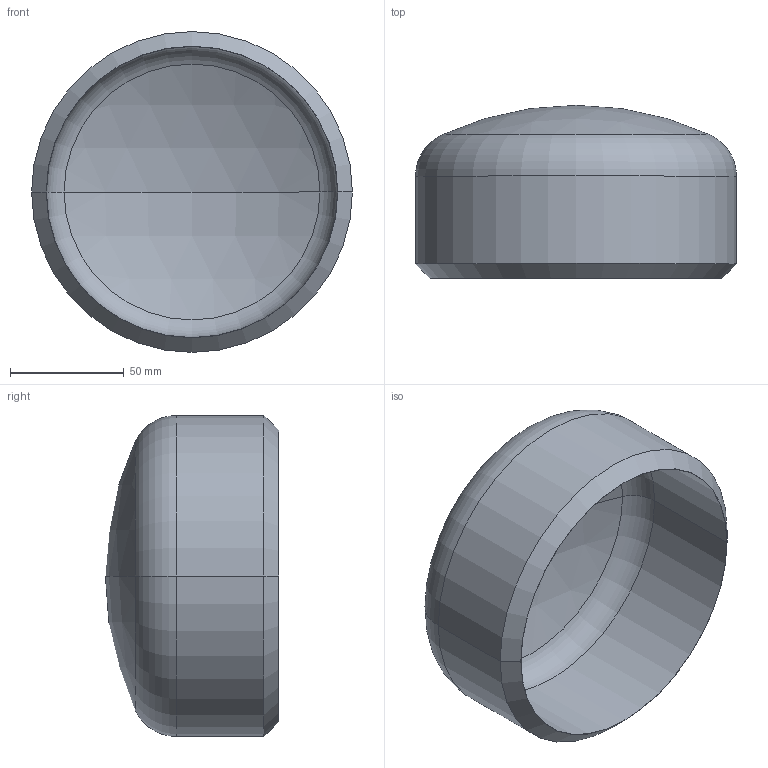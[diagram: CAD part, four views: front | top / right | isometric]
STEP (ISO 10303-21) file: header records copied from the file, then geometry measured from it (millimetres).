
FILE_DESCRIPTION (( 'STEP AP203' ), '1' );
FILE_NAME ('3D_R275_5x40S_173455220.STEP', '2024-08-23T12:19:52', ( '' ), ( '' ), 'SwSTEP 2.0', 'SolidWorks 2024', '' );
FILE_SCHEMA (( 'CONFIG_CONTROL_DESIGN' ));
Length unit declared in the file: millimetre
Products named in the file (1): 3D_R275_5x40S_173455220
Bounding box: 141.3 x 76.2 x 141.3 mm (x, y, z)
Volume: 237831.3 mm3; surface area: 76485.2 mm2
Topology: 1 solids, 1 shells, 15 faces, 28 edges, 16 vertices
Faces by surface type: sphere 4, torus 4, cylinder 4, cone 2, plane 1
Entity records: 457 total; most frequent: DIRECTION 82, CARTESIAN_POINT 60, ORIENTED_EDGE 56, AXIS2_PLACEMENT_3D 38, EDGE_CURVE 28, CIRCLE 22, EDGE_LOOP 16, VERTEX_POINT 16
